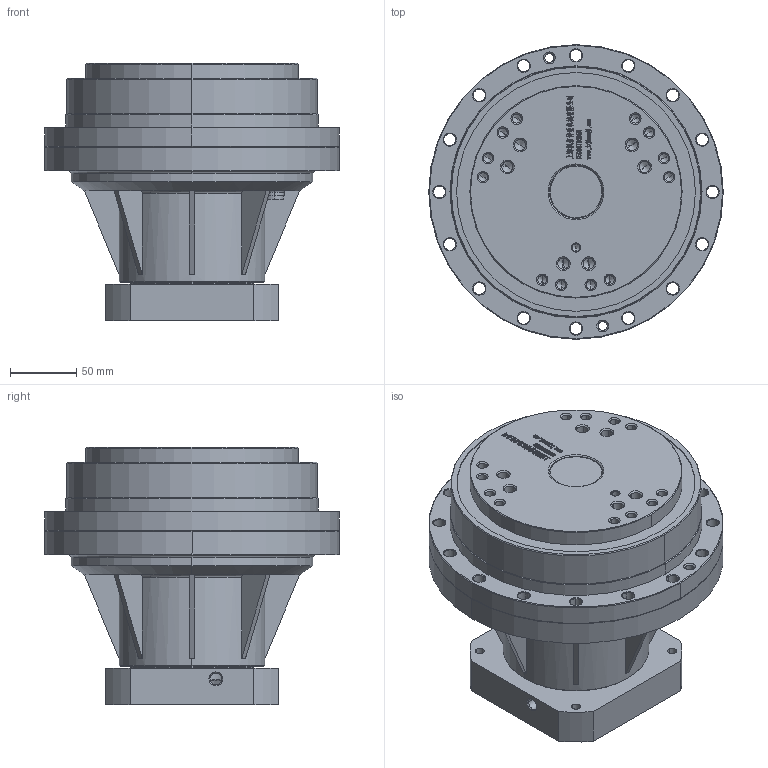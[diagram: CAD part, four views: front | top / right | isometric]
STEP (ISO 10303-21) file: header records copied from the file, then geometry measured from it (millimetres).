
FILE_DESCRIPTION (( 'STEP AP214' ), '1' );
FILE_NAME ('220BX-REA2-19key-110145M8.STEP', '2022-11-12T02:05:32', ( '' ), ( '' ), 'SwSTEP 2.0', 'SolidWorks 2020', '' );
FILE_SCHEMA (( 'AUTOMOTIVE_DESIGN' ));
Length unit declared in the file: millimetre
Products named in the file (15): 弹性挡圈GB 893.1-86 - 68.stp; 220BX输入法兰REA2-01.stp; 220BX-REA2-19key-110145M8; 弹性挡圈GB 894.1-86 - 40.stp; DIN 908 - M10 x 1.stp; 粣創 6008-Z GB_T 276-94.stp; 蹟隊 GB_T 70.1 M5 x 25.stp; 220BX-REA2-19key-110145M8.stp; 萇儂假蚾楊擘110-145.stp; 40傷裔蚐猾.stp; 錨璃282^220BX-REA2-19key-110145M8; 蹟隊 GB_T 70.1 M6 x 20.stp; 220BX-042key-REA2-19.stp; JIS B 2402 - 45 68 12 A(7).stp; 220BX-REA2-00.stp
Assembly tree (19 placements, depth 3):
  220BX-REA2-19key-110145M8
    220BX-REA2-19key-110145M8.stp
      220BX-REA2-00.stp
      220BX输入法兰REA2-01.stp
      萇儂假蚾楊擘110-145.stp
      220BX-042key-REA2-19.stp
      粣創 6008-Z GB_T 276-94.stp
      弹性挡圈GB 893.1-86 - 68.stp
      弹性挡圈GB 894.1-86 - 40.stp
      JIS B 2402 - 45 68 12 A(7).stp
      蹟隊 GB_T 70.1 M6 x 20.stp
      蹟隊 GB_T 70.1 M5 x 25.stp  x6
      DIN 908 - M10 x 1.stp
      40傷裔蚐猾.stp
    錨璃282^220BX-REA2-19key-110145M8
Bounding box: 222 x 222 x 194.2 mm (x, y, z)
Volume: 3279507.8 mm3; surface area: 490728.9 mm2
Topology: 96 solids, 105 shells, 2947 faces, 7642 edges, 4913 vertices
Faces by surface type: plane 1416, bspline 572, cylinder 457, cone 376, torus 102, sphere 24
Entity records: 130405 total; most frequent: CARTESIAN_POINT 44987, ORIENTED_EDGE 14480, DIRECTION 11823, EDGE_CURVE 7240, VERTEX_POINT 4712, LINE 4589, VECTOR 4589, AXIS2_PLACEMENT_3D 3617
